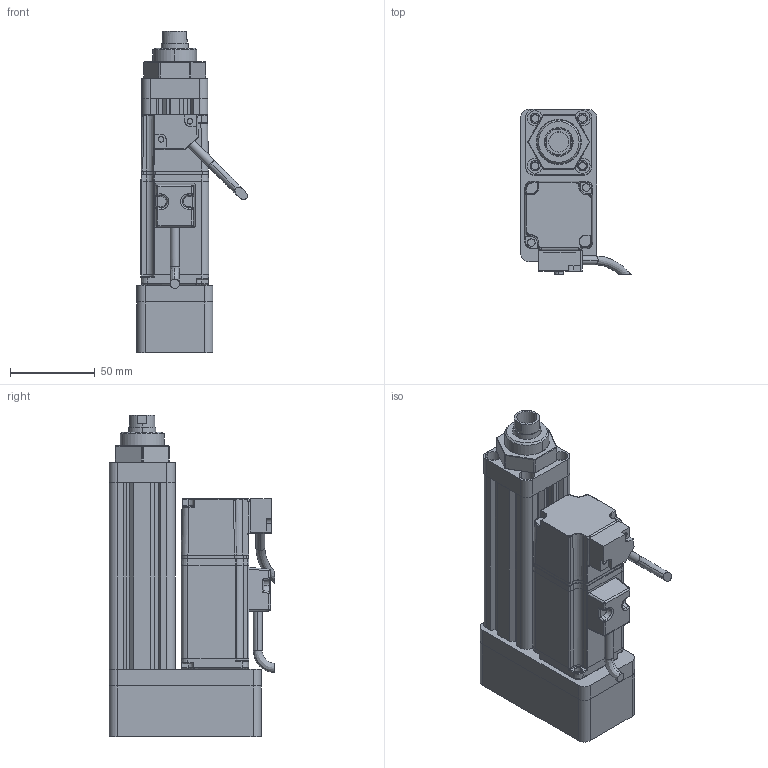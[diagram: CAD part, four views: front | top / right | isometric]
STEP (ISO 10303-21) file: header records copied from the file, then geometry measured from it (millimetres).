
FILE_DESCRIPTION (( 'STEP AP214' ), '1' );
FILE_NAME ('039-S50-D02-B-M4-C2-2.STEP', '2021-02-25T09:00:28', ( '' ), ( '' ), 'SwSTEP 2.0', 'SolidWorks 2018', '' );
FILE_SCHEMA (( 'AUTOMOTIVE_DESIGN' ));
Length unit declared in the file: millimetre
Products named in the file (8): CMC039-LJB; ECMA-CX0401ES-40框號系列機種-100W低慣量系列; 039-S50-D02-B-M4-C2-2; CMC039-M261; CMC039-FL; CMC039-GT; CMC039-DT; CMC039-HXT
Assembly tree (7 placements, depth 2):
  039-S50-D02-B-M4-C2-2
    CMC039-GT
    CMC039-LJB
    CMC039-FL
    CMC039-DT
    ECMA-CX0401ES-40框號系列機種-100W低慣量系列
    CMC039-M261
    CMC039-HXT
Bounding box: 65.34 x 97.89 x 190 mm (x, y, z)
Volume: 372909 mm3; surface area: 115467.1 mm2
Topology: 7 solids, 15 shells, 697 faces, 1812 edges, 1126 vertices
Faces by surface type: cylinder 287, plane 269, bspline 84, cone 57
Entity records: 27531 total; most frequent: CARTESIAN_POINT 11127, ORIENTED_EDGE 3558, DIRECTION 2940, EDGE_CURVE 1779, VERTEX_POINT 1126, AXIS2_PLACEMENT_3D 1026, VECTOR 888, LINE 888
